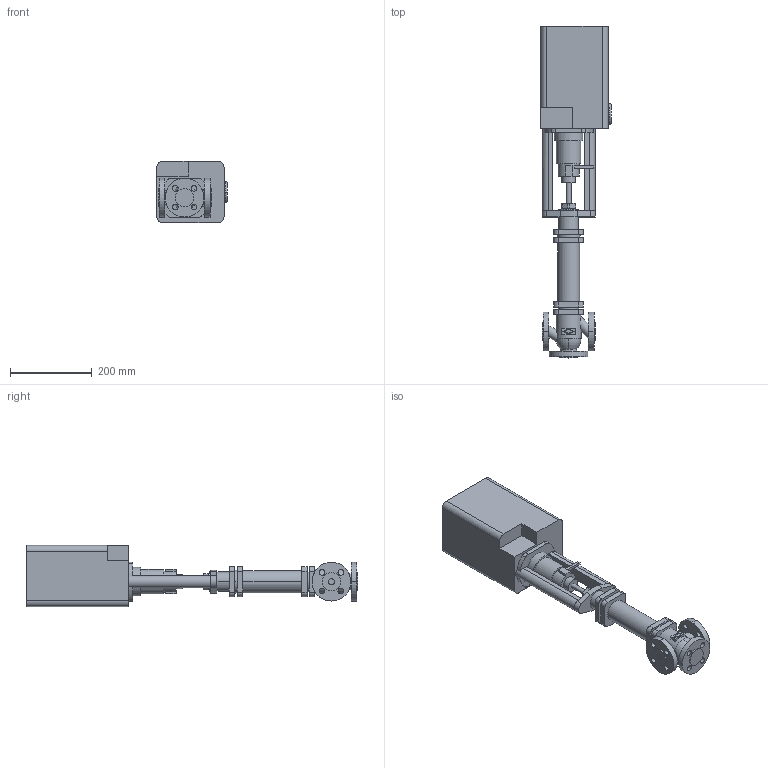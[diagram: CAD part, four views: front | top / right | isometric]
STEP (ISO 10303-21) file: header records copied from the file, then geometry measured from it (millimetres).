
FILE_DESCRIPTION(('OneSpaceDesigner STEP Export'),'2;1');
FILE_NAME('c000002441.stp','2006-09-21T11:46:25',(''),(''),'OneSpace Designer STEP processor for AP214 (Solid Model)','OneSpace Designer 13.20A 18-Aug-2005 (C) CoCreate Software GmbH','');
FILE_SCHEMA(('AUTOMOTIVE_DESIGN { 1 0 10303 214 1 1 1 1 }'));
Length unit declared in the file: millimetre
Products named in the file (2): 1; 2
Bounding box: 173 x 814 x 150 mm (x, y, z)
Volume: 8095333.6 mm3; surface area: 435064.8 mm2
Topology: 2 solids, 2 shells, 235 faces, 600 edges, 400 vertices
Faces by surface type: cylinder 116, plane 115, torus 4
Entity records: 6812 total; most frequent: CARTESIAN_POINT 1282, ORIENTED_EDGE 1200, DIRECTION 1063, EDGE_CURVE 600, VERTEX_POINT 400, AXIS2_PLACEMENT_3D 366, VECTOR 331, LINE 331
